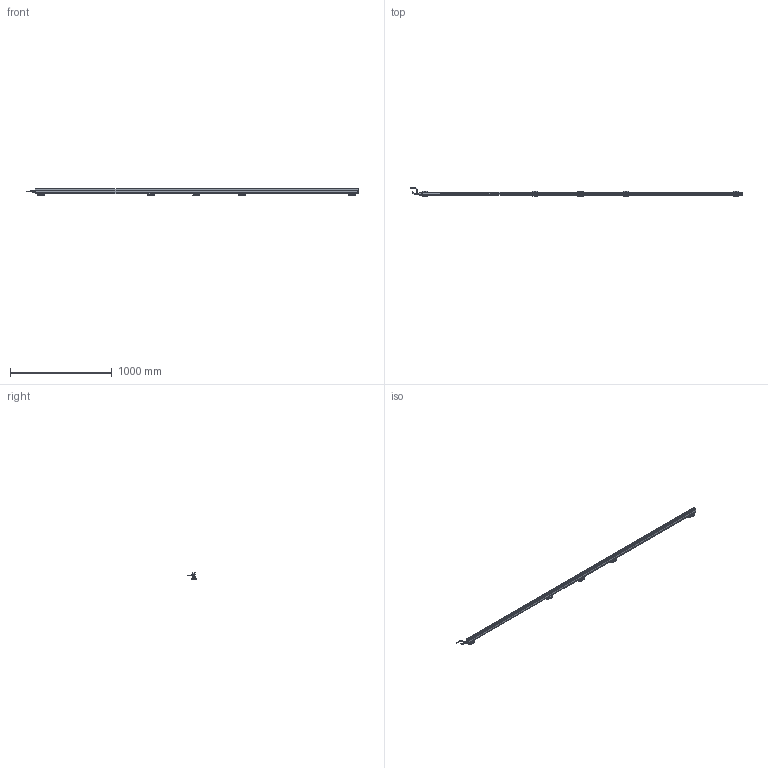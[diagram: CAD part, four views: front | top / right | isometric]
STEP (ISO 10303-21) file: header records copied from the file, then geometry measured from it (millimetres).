
FILE_DESCRIPTION(('Bauteilbeschreibung','HiCAD-Model','HiCAD-STEP-TRANSLATION','Bauteilbeschreibung'),'2;1');
FILE_NAME('PERFORMAXIQEASY_3090-3180_3D.STP','2014-03-05T13:13:57+00:00',('Konstrukteur'),('Konstrukteur Firma GmbH'),' HiCAD 2011, Step 1600.0 ','HiCAD 2011','confidential');
FILE_SCHEMA(('AUTOMOTIVE_DESIGN { 1 2 10303 214 0 1 1 1 }'));
Products named in the file (51): PERFORMAXIQEASY_3090_3180_3D; A_PERFORMAX IQ EASY 3090_3180; A_PERFORMAX IQ EASY SPEED; A_CAP DE; A_CAP CE_5; LED_2C_3MM; LED02C03MM; A519020315_CONNECTOR APPLIANCE; A_INSERT; A_CONTACTS; A_HOUSING; A_PROFILE; A_POTTING; PIN; PIN0; A532000100_BRACKET BARS_ MOUNT; A_SIDE PIECE; A0SIDE0PIECE; A_BRACKET SMALL; A_SLIDE PIECE; A5320001000BRACKET0BARS00MOUNT; A0SIDE0PIECE0; A0SIDE0PIECE1; A0BRACKET0SMALL; A0SLIDE0PIECE; A5320001000BRACKET0BARS00MOUNT0; A0SIDE0PIECE2; A0SIDE0PIECE3; A0BRACKET0SMALL0; A0SLIDE0PIECE0; A0SIDE0PIECE4; A0SIDE0PIECE5; A0BRACKET0SMALL1; A0SLIDE0PIECE1; A0SIDE0PIECE6; A0SIDE0PIECE7; A0BRACKET0SMALL2; A0SLIDE0PIECE2; A_CONNECTOR STRAIGHT; EXTRUDED SOLID_0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
Assembly tree (50 placements, depth 5):
  PERFORMAXIQEASY_3090_3180_3D
    A_PERFORMAX IQ EASY 3090_3180
      A_PERFORMAX IQ EASY SPEED
        A_CAP DE
        A_CAP CE_5
        LED_2C_3MM
        LED02C03MM
        A519020315_CONNECTOR APPLIANCE
          A_INSERT
          A_CONTACTS
          A_HOUSING
        A_PROFILE
        A_POTTING
        PIN
        PIN0
      A532000100_BRACKET BARS_ MOUNT
        A_SIDE PIECE
        A0SIDE0PIECE
        A_BRACKET SMALL
        A_SLIDE PIECE
      A5320001000BRACKET0BARS00MOUNT
        A0SIDE0PIECE0
        A0SIDE0PIECE1
        A0BRACKET0SMALL
        A0SLIDE0PIECE
      A5320001000BRACKET0BARS00MOUNT0
        A0SIDE0PIECE2
        A0SIDE0PIECE3
        A0BRACKET0SMALL0
        A0SLIDE0PIECE0
      A5320001000BRACKET0BARS00MOUNT0
        A0SIDE0PIECE4
        A0SIDE0PIECE5
        A0BRACKET0SMALL1
        A0SLIDE0PIECE1
      A5320001000BRACKET0BARS00MOUNT0
        A0SIDE0PIECE6
        A0SIDE0PIECE7
        A0BRACKET0SMALL2
        A0SLIDE0PIECE2
      A_CONNECTOR STRAIGHT
        EXTRUDED SOLID_0
        DRAAD GEBOGEN
        REVOLVED SOLID_1
        REVOLVED SOLID_3
      A_CONNECTOR ANGLED
        REVOLVED0SOLID01
        EXTRUDED0SOLID00
        C_EDGE SWEEP_0
        REVOLVED SOLID_2
        REVOLVED0SOLID03
Bounding box: 3257.89 x 84.26 x 63.13 mm (x, y, z)
Volume: 3281668.5 mm3; surface area: 800619.7 mm2
Topology: 45 solids, 45 shells, 4215 faces, 10820 edges, 6422 vertices
Faces by surface type: cylinder 1797, plane 1597, sphere 277, torus 252, bspline 208, cone 84
Full cylindrical faces by diameter (mm): 0.8 x10, 1 x5, 2.387 x10, 3 x23, 3.1 x1, 4.2 x2, 5 x4, 5.5 x25, 8 x2, 8.2 x1, 8.4 x2, 8.945 x1, 9 x2, 10.2 x1, 10.5 x3, 11 x1, 12 x3, 12.8 x1, 13.8 x4, 14.5 x3
Entity records: 195163 total; most frequent: CARTESIAN_POINT 45850, DIRECTION 20961, ORIENTED_EDGE 20534, EDGE_CURVE 10267, COLOUR_RGB 9750, PRESENTATION_STYLE_ASSIGNMENT 9750, OVER_RIDING_STYLED_ITEM 9710, CURVE_STYLE 9705
